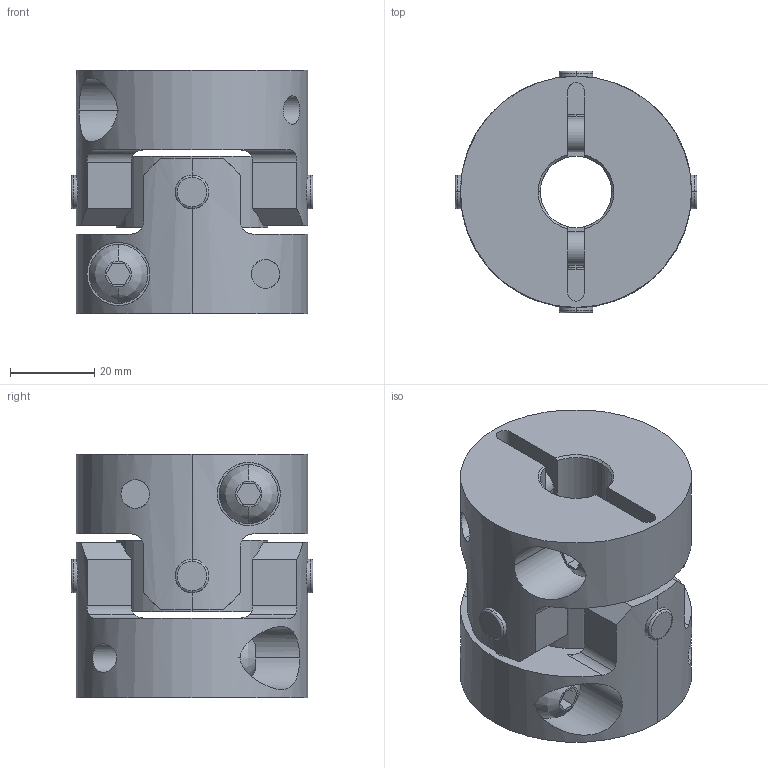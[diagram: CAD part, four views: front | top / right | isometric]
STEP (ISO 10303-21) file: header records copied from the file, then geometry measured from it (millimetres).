
FILE_DESCRIPTION((''),'2;1');
FILE_NAME('UA-55C-17×20.stp','2013-05-22T14:06:48',(''),(''),'AutoCAD STEP 2000i','AutoCAD 2000i',', , ');
FILE_SCHEMA(('CONFIG_CONTROL_DESIGN'));
Length unit declared in the file: millimetre
Products named in the file (7): UA-55C-10×18; 忣兜1; UA-5502-D18; BTN-M8; UA-5502-D10-1; UA-5502-D10; UA55-SEN
Assembly tree (8 placements, depth 3):
  UA-55C-10×18
    忣兜1
    UA-5502-D18
      BTN-M8
    UA-5502-D10-1
      BTN-M8
    UA-5502-D10
      BTN-M8
    UA55-SEN
Bounding box: 57.55 x 57.55 x 58 mm (x, y, z)
Volume: 97119.1 mm3; surface area: 31102.7 mm2
Topology: 1 solids, 1 shells, 206 faces, 554 edges, 364 vertices
Faces by surface type: cylinder 96, plane 78, cone 16, bspline 8, torus 8
Entity records: 8407 total; most frequent: CARTESIAN_POINT 3071, ORIENTED_EDGE 1108, DIRECTION 1068, EDGE_CURVE 554, AXIS2_PLACEMENT_3D 411, VERTEX_POINT 364, VECTOR 246, LINE 246
